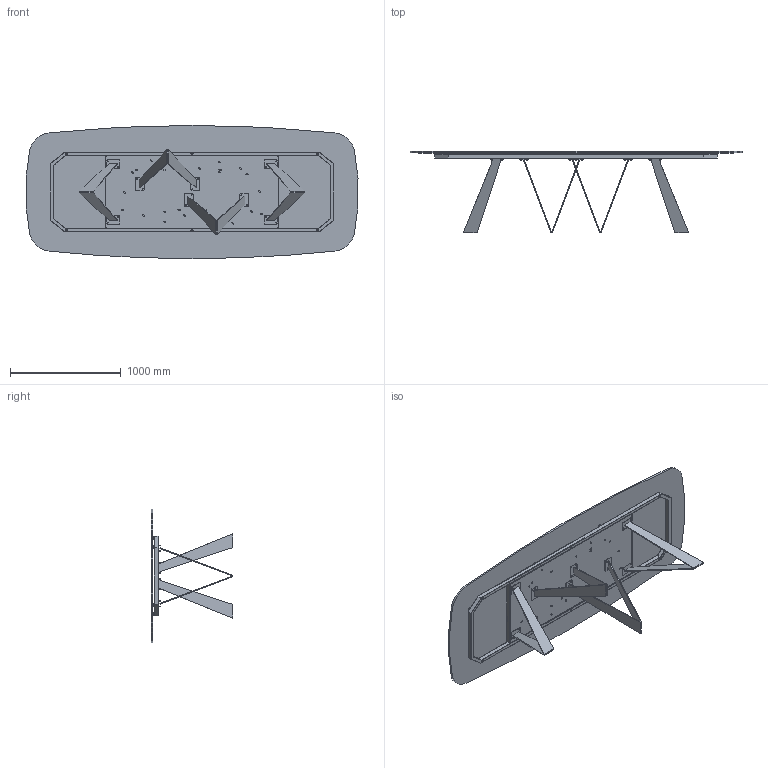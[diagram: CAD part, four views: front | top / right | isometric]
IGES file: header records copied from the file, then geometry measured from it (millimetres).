
Start section: SolidWorks IGES file using analytic representation for surfaces
Global section: file name: Y:\eforma\TECNICO\SOLIDWORKS\E-FORMA\1-TAVOLI\NOA TAVOLO\02 parts\NO44G_Noa_300x120x75h_Glass Shaped.IGS; native system: SolidWorks 2022; preprocessor: SolidWorks 2022; author: eforma.tech; date: 240807.162341; units: millimetre
Bounding box: 2991.72 x 734.8 x 1200 mm (x, y, z)
Volume: 61610366.7 mm3; surface area: 12249876.8 mm2
Topology: 51 solids, 51 shells, 1165 faces, 2735 edges, 1642 vertices
Faces by surface type: revolution 649, plane 516
